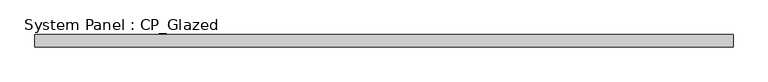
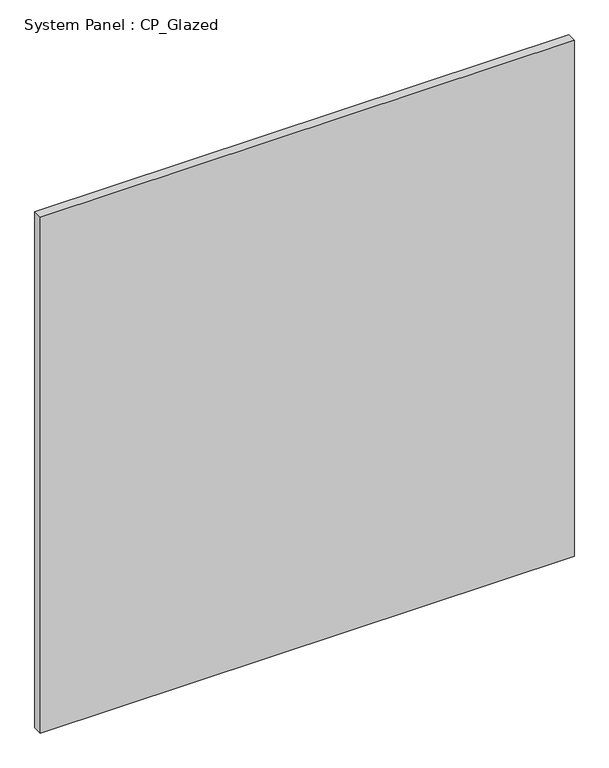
"""IFC4 building model written with IfcOpenShell, lengths in millimetres: plate geometry, System Panel : CP_Glazed."""

from ifc_helpers import new_model, si_unit, origin, origin_with_axes, place, context, project, spatial, polyline, outline, extrude, source, transform, mapped, element, save


def system_panel_cp_glazed_bba05fcd(model_context):
    return source(origin(), model_context, "Body", "SweptSolid", [
        extrude(outline(polyline([(724.535, -44.45), (-724.535, -44.45), (-724.535, -19.05), (724.535, -19.05), (724.535, -44.45)])), origin_with_axes(), (0.0, 0.0, 1.0), 1479.55),
    ])


if __name__ == "__main__":
    model = new_model("IFC4")
    model_context = context("Model", 3, world=origin())
    ifc_project = project(units=[si_unit("LENGTHUNIT", "METRE", prefix="MILLI")], contexts=[model_context])
    site = spatial("IfcSite", under=ifc_project)
    building = spatial("IfcBuilding", under=site)
    placement = place(None, origin())
    system_panel_cp_glazed_shape = system_panel_cp_glazed_bba05fcd(model_context)
    element("IfcPlate", 1, ObjectType="System Panel : CP_Glazed", at=placement, inside=building, context=model_context, shape_type="MappedRepresentation", body=[
        mapped(system_panel_cp_glazed_shape, transform((0.0, 0.0, 0.0), x_axis=(1.0, 0.0, 0.0), y_axis=(0.0, 1.0, 0.0), z_axis=(0.0, 0.0, 1.0))),
    ])
    save(model, "model.ifc")
